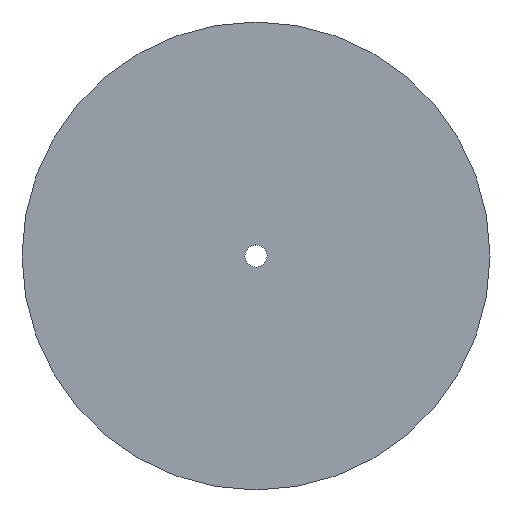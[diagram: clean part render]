
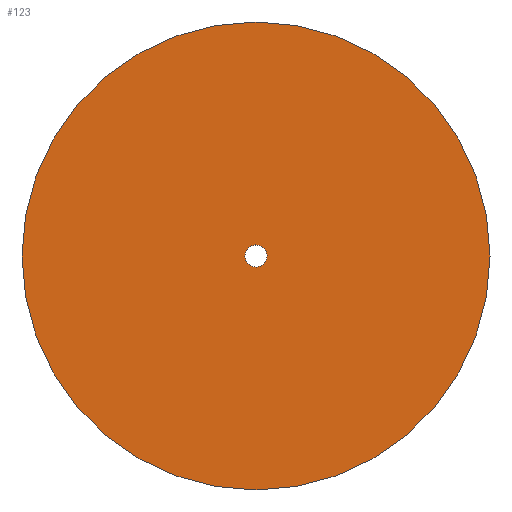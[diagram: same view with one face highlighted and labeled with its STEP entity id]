
A CAD part, top view. The second image highlights one B-rep face of the part: STEP entity #123.
In plain terms, the highlighted planar face has unit normal (0, 0, 1).
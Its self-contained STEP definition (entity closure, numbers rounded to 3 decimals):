
#62=CARTESIAN_POINT('Vertex',(-2.852,1.558,0.)) ;
#76=CARTESIAN_POINT('Vertex',(2.852,-1.558,0.)) ;
#79=CARTESIAN_POINT('Axis2P3D Location',(0.,0.,0.)) ;
#91=CARTESIAN_POINT('Axis2P3D Location',(0.,0.,0.)) ;
#96=CARTESIAN_POINT('Axis2P3D Location',(0.,0.,0.)) ;
#100=CARTESIAN_POINT('Vertex',(69.,0.,0.)) ;
#102=CARTESIAN_POINT('Vertex',(-69.,0.,0.)) ;
#105=CARTESIAN_POINT('Axis2P3D Location',(0.,0.,0.)) ;
#114=CARTESIAN_POINT('Axis2P3D Location',(0.,0.,0.)) ;
#80=DIRECTION('Axis2P3D Direction',(0.,-0.,-1.)) ;
#92=DIRECTION('Axis2P3D Direction',(0.,0.,1.)) ;
#93=DIRECTION('Axis2P3D XDirection',(1.,0.,0.)) ;
#97=DIRECTION('Axis2P3D Direction',(0.,0.,1.)) ;
#106=DIRECTION('Axis2P3D Direction',(0.,0.,1.)) ;
#115=DIRECTION('Axis2P3D Direction',(0.,0.,1.)) ;
#81=AXIS2_PLACEMENT_3D('Circle Axis2P3D',#79,#80,$) ;
#94=AXIS2_PLACEMENT_3D('Plane Axis2P3D',#91,#92,#93) ;
#98=AXIS2_PLACEMENT_3D('Circle Axis2P3D',#96,#97,$) ;
#107=AXIS2_PLACEMENT_3D('Circle Axis2P3D',#105,#106,$) ;
#116=AXIS2_PLACEMENT_3D('Circle Axis2P3D',#114,#115,$) ;
#111=ORIENTED_EDGE('',*,*,#104,.F.) ;
#112=ORIENTED_EDGE('',*,*,#109,.F.) ;
#120=ORIENTED_EDGE('',*,*,#118,.F.) ;
#121=ORIENTED_EDGE('',*,*,#83,.F.) ;
#122=FACE_BOUND('',#119,.T.) ;
#123=ADVANCED_FACE('PartBody',(#113,#122),#95,.T.) ;
#82=CIRCLE('generated circle',#81,3.25) ;
#99=CIRCLE('generated circle',#98,69.) ;
#108=CIRCLE('generated circle',#107,69.) ;
#117=CIRCLE('generated circle',#116,3.25) ;
#83=EDGE_CURVE('',#77,#63,#82,.F.) ;
#104=EDGE_CURVE('',#101,#103,#99,.F.) ;
#109=EDGE_CURVE('',#103,#101,#108,.F.) ;
#118=EDGE_CURVE('',#63,#77,#117,.T.) ;
#110=EDGE_LOOP('',(#111,#112)) ;
#119=EDGE_LOOP('',(#120,#121)) ;
#113=FACE_OUTER_BOUND('',#110,.T.) ;
#95=PLANE('',#94) ;
#63=VERTEX_POINT('',#62) ;
#77=VERTEX_POINT('',#76) ;
#101=VERTEX_POINT('',#100) ;
#103=VERTEX_POINT('',#102) ;
